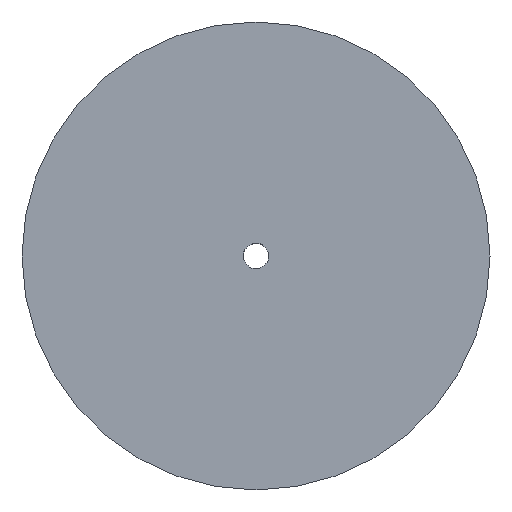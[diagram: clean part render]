
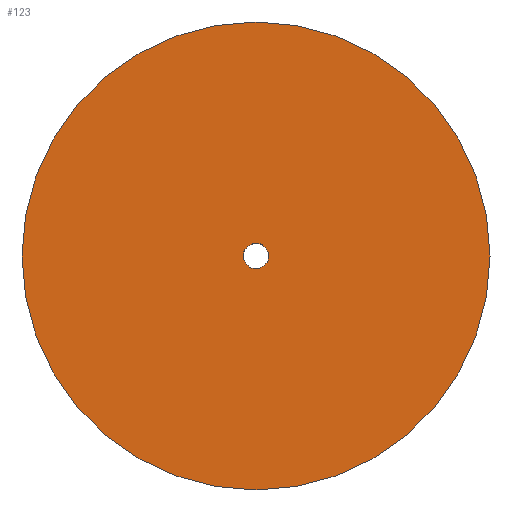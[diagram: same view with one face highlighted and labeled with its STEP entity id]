
A CAD part, top view. The second image highlights one B-rep face of the part: STEP entity #123.
In plain terms, the highlighted planar face has unit normal (0, 0, 1).
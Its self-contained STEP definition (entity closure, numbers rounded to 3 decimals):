
#62=CARTESIAN_POINT('Vertex',(-2.852,1.558,0.)) ;
#76=CARTESIAN_POINT('Vertex',(2.852,-1.558,0.)) ;
#79=CARTESIAN_POINT('Axis2P3D Location',(0.,0.,0.)) ;
#91=CARTESIAN_POINT('Axis2P3D Location',(0.,0.,0.)) ;
#96=CARTESIAN_POINT('Axis2P3D Location',(0.,0.,0.)) ;
#100=CARTESIAN_POINT('Vertex',(60.,0.,0.)) ;
#102=CARTESIAN_POINT('Vertex',(-60.,0.,0.)) ;
#105=CARTESIAN_POINT('Axis2P3D Location',(0.,0.,0.)) ;
#114=CARTESIAN_POINT('Axis2P3D Location',(0.,0.,0.)) ;
#80=DIRECTION('Axis2P3D Direction',(0.,-0.,-1.)) ;
#92=DIRECTION('Axis2P3D Direction',(0.,0.,1.)) ;
#93=DIRECTION('Axis2P3D XDirection',(1.,0.,0.)) ;
#97=DIRECTION('Axis2P3D Direction',(0.,0.,1.)) ;
#106=DIRECTION('Axis2P3D Direction',(0.,0.,1.)) ;
#115=DIRECTION('Axis2P3D Direction',(0.,0.,1.)) ;
#81=AXIS2_PLACEMENT_3D('Circle Axis2P3D',#79,#80,$) ;
#94=AXIS2_PLACEMENT_3D('Plane Axis2P3D',#91,#92,#93) ;
#98=AXIS2_PLACEMENT_3D('Circle Axis2P3D',#96,#97,$) ;
#107=AXIS2_PLACEMENT_3D('Circle Axis2P3D',#105,#106,$) ;
#116=AXIS2_PLACEMENT_3D('Circle Axis2P3D',#114,#115,$) ;
#111=ORIENTED_EDGE('',*,*,#104,.F.) ;
#112=ORIENTED_EDGE('',*,*,#109,.F.) ;
#120=ORIENTED_EDGE('',*,*,#118,.F.) ;
#121=ORIENTED_EDGE('',*,*,#83,.F.) ;
#122=FACE_BOUND('',#119,.T.) ;
#123=ADVANCED_FACE('PartBody',(#113,#122),#95,.T.) ;
#82=CIRCLE('generated circle',#81,3.25) ;
#99=CIRCLE('generated circle',#98,60.) ;
#108=CIRCLE('generated circle',#107,60.) ;
#117=CIRCLE('generated circle',#116,3.25) ;
#83=EDGE_CURVE('',#77,#63,#82,.F.) ;
#104=EDGE_CURVE('',#101,#103,#99,.F.) ;
#109=EDGE_CURVE('',#103,#101,#108,.F.) ;
#118=EDGE_CURVE('',#63,#77,#117,.T.) ;
#110=EDGE_LOOP('',(#111,#112)) ;
#119=EDGE_LOOP('',(#120,#121)) ;
#113=FACE_OUTER_BOUND('',#110,.T.) ;
#95=PLANE('',#94) ;
#63=VERTEX_POINT('',#62) ;
#77=VERTEX_POINT('',#76) ;
#101=VERTEX_POINT('',#100) ;
#103=VERTEX_POINT('',#102) ;
